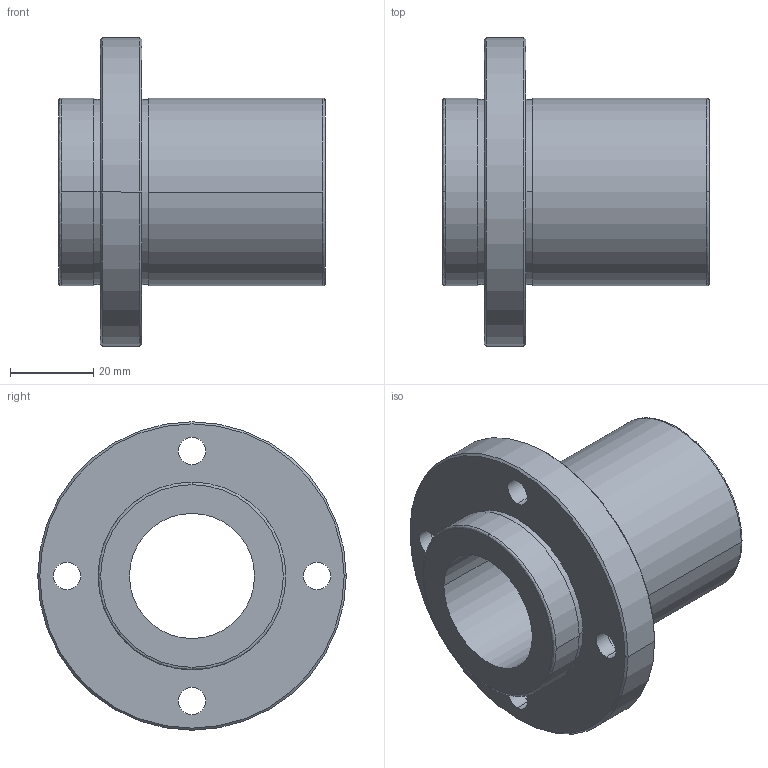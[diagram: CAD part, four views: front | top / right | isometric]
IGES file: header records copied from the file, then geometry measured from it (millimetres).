
Start section: 3D InterOp IGES (Version 21 0 1), Spatial Corp. Copyright (c) 1999-2007.
Global section: file name: NFID-30VUU.igs; native system: Spatial Corp.; preprocessor: 3D InterOp GENERIC/IGES 3.0; author: Noname; organization: Noname; date: 20220308.111820; units: millimetre
Bounding box: 64 x 74 x 74 mm (x, y, z)
Surface area: 24013.1 mm2 (no closed solid volume)
Topology: 0 solids, 0 shells, 46 faces, 208 edges, 208 vertices
Faces by surface type: revolution 36, extrusion 10
